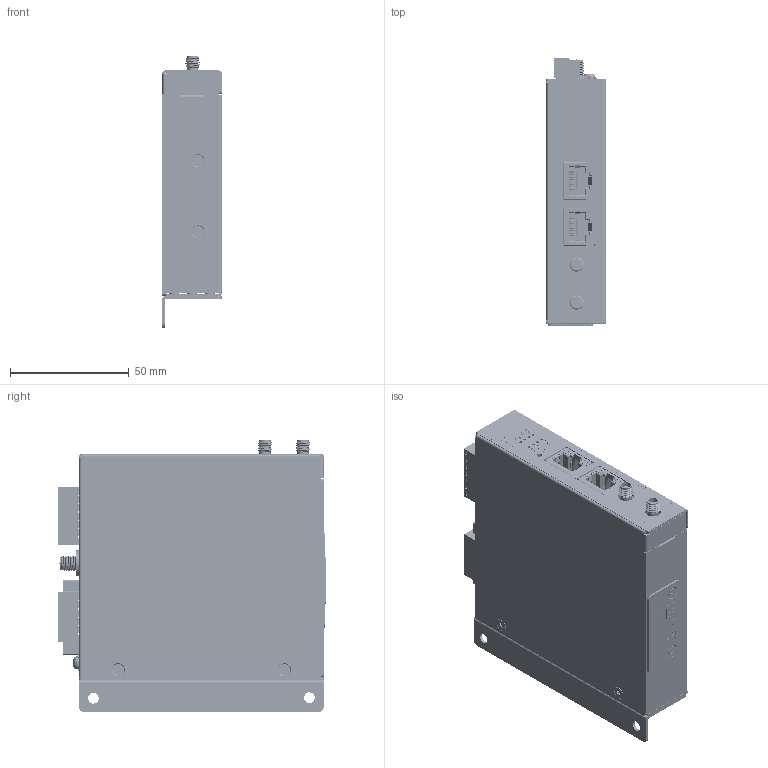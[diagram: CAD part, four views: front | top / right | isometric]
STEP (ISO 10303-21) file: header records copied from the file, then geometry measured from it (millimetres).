
FILE_DESCRIPTION (( 'STEP AP214' ), '1' );
FILE_NAME ('ICR-24xxW_Wall_mount.STEP', '2024-10-04T09:23:11', ( '' ), ( '' ), 'SwSTEP 2.0', 'SolidWorks 2024', '' );
FILE_SCHEMA (( 'AUTOMOTIVE_DESIGN' ));
Length unit declared in the file: millimetre
Products named in the file (35): Plug-In_Block_1x6P; Pin_Header_5x2P; Wall_mount_ICR-2(0,4)xx; Micro_SIM_ card_Connector; Terminal_Block_1x7P; Plate_for_SIM_ICR-2(0,4,5,6)xx; SCR_BK_M3_L5_PH_FL_TW_GLUE; B-ICR24xx A103-1; SCR_BK_M3_L5_PH_FL_TW; VMC-2022-04-1_Label - Insert SIM carefully_B; PCB-WIFI-20(4,5,6)xx; Cover_for_ICR_24xx; PCB_ICR-20(4)xx; SCR_ZC_M3_L10_PH_BN; ICR-2400_FRONT_Label; Plug-In_Block_1x7P; PUSH_SW_3P; VMC-2022-04-1_Label - Insert SIM carefully; LED_HOLDER_GGGG; BTB_20P_Connector; SMA_1P; SMA_5P_Connector; Chassis_for_ICR-24xx(G_W); Washer_V2i_AUX_W; B-ICR-WIFI-20(4,5,6)xx-A107-1; Terminal_Block_1x6P; ICR-24xxW_Wall_mount; VMC-2022-04-1_Label - Insert SIM carefully_A; RJ45_8p_ Connector; BTB_20P_Conn; SCR_ZC_M3_L6_PH_PW_2; SIM7155-6-1-14-A_PART1; SCR_ZC_M3_L6_PH_PW; SIM7155-6-1-14-A_PART2; Post_D3xL5
Assembly tree (47 placements, depth 4):
  ICR-24xxW_Wall_mount
    B-ICR24xx A103-1
      PCB_ICR-20(4)xx
      Micro_SIM_ card_Connector  x2
        SIM7155-6-1-14-A_PART1
        SIM7155-6-1-14-A_PART2
      Terminal_Block_1x7P
      Pin_Header_5x2P
      Terminal_Block_1x6P
      PUSH_SW_3P
      SMA_5P_Connector  x2
      LED_HOLDER_GGGG  x2
      RJ45_8p_ Connector  x2
      BTB_20P_Connector
    B-ICR-WIFI-20(4,5,6)xx-A107-1
      PCB-WIFI-20(4,5,6)xx
      BTB_20P_Conn
      SMA_1P
      Post_D3xL5
    Chassis_for_ICR-24xx(G_W)
    Cover_for_ICR_24xx
    Plate_for_SIM_ICR-2(0,4,5,6)xx
    Washer_V2i_AUX_W
    Plug-In_Block_1x7P
    Plug-In_Block_1x6P
    ICR-2400_FRONT_Label
    VMC-2022-04-1_Label - Insert SIM carefully
      VMC-2022-04-1_Label - Insert SIM carefully_A
      VMC-2022-04-1_Label - Insert SIM carefully_B
    SCR_BK_M3_L5_PH_FL_TW  x5
    SCR_BK_M3_L5_PH_FL_TW_GLUE  x4
    SCR_ZC_M3_L6_PH_PW_2
    SCR_ZC_M3_L6_PH_PW  x3
    SCR_ZC_M3_L10_PH_BN
    Wall_mount_ICR-2(0,4)xx
Bounding box: 25 x 112.9 x 114.6 mm (x, y, z)
Volume: 67952.7 mm3; surface area: 122238.3 mm2
Topology: 61 solids, 75 shells, 14074 faces, 39748 edges, 25780 vertices
Faces by surface type: plane 9036, cylinder 3436, bspline 1114, cone 301, torus 111, sphere 76
Entity records: 493232 total; most frequent: CARTESIAN_POINT 121349, ORIENTED_EDGE 61030, DIRECTION 53375, EDGE_CURVE 30515, VECTOR 22591, LINE 22591, VERTEX_POINT 19802, AXIS2_PLACEMENT_3D 15392
